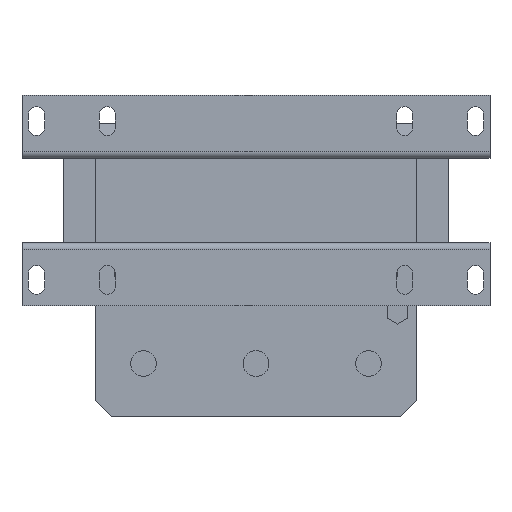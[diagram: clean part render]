
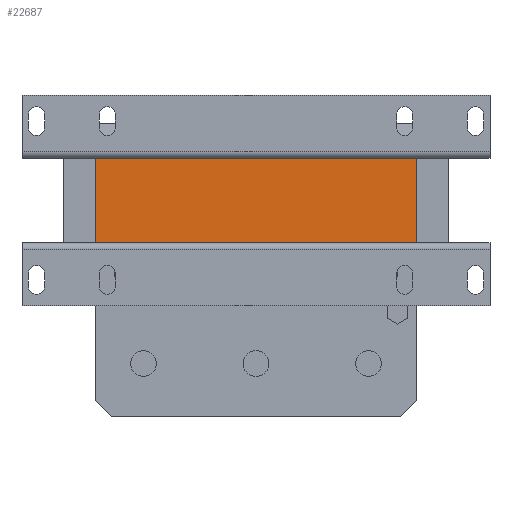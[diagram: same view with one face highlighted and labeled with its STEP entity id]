
A CAD part, front view. The second image highlights one B-rep face of the part: STEP entity #22687.
In plain terms, the highlighted planar face has unit normal (0, -1, 0).
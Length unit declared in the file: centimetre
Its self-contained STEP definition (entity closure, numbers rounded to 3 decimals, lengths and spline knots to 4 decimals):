
#128 = ORIENTED_EDGE ( 'NONE', *, *, #17214, .T. ) ;
#2708 = DIRECTION ( 'NONE',  ( 0., 0., -1. ) ) ;
#3041 = LINE ( 'NONE', #9224, #20859 ) ;
#4007 = DIRECTION ( 'NONE',  ( 0., 0., -1. ) ) ;
#4181 = AXIS2_PLACEMENT_3D ( 'NONE', #21871, #13037, #10677 ) ;
#5174 = EDGE_CURVE ( 'NONE', #12639, #20994, #6216, .T. ) ;
#5189 = CARTESIAN_POINT ( 'NONE',  ( 10., 0.8, 2.64 ) ) ;
#5818 = VERTEX_POINT ( 'NONE', #7489 ) ;
#6216 = LINE ( 'NONE', #24484, #8827 ) ;
#6393 = FACE_OUTER_BOUND ( 'NONE', #21777, .T. ) ;
#7274 = CARTESIAN_POINT ( 'NONE',  ( -10., 0.8, 2.64 ) ) ;
#7489 = CARTESIAN_POINT ( 'NONE',  ( -10., 0.8, 2.64 ) ) ;
#8193 = CARTESIAN_POINT ( 'NONE',  ( -10., 0.8, -2.64 ) ) ;
#8279 = CARTESIAN_POINT ( 'NONE',  ( -10., 0.8, -2.64 ) ) ;
#8827 = VECTOR ( 'NONE', #4007, 100. ) ;
#9224 = CARTESIAN_POINT ( 'NONE',  ( -10., 0.8, 2.64 ) ) ;
#9297 = CARTESIAN_POINT ( 'NONE',  ( 10., 0.8, -2.64 ) ) ;
#9356 = ORIENTED_EDGE ( 'NONE', *, *, #18368, .T. ) ;
#10677 = DIRECTION ( 'NONE',  ( 0., 0., 1. ) ) ;
#10945 = ORIENTED_EDGE ( 'NONE', *, *, #5174, .F. ) ;
#10964 = ORIENTED_EDGE ( 'NONE', *, *, #27060, .F. ) ;
#11980 = LINE ( 'NONE', #7274, #26225 ) ;
#12639 = VERTEX_POINT ( 'NONE', #5189 ) ;
#12696 = VECTOR ( 'NONE', #26278, 100. ) ;
#13037 = DIRECTION ( 'NONE',  ( 0., 1., 0. ) ) ;
#16441 = LINE ( 'NONE', #8279, #12696 ) ;
#17214 = EDGE_CURVE ( 'NONE', #5818, #25780, #11980, .T. ) ;
#17443 = PLANE ( 'NONE',  #4181 ) ;
#18368 = EDGE_CURVE ( 'NONE', #25780, #20994, #16441, .T. ) ;
#20859 = VECTOR ( 'NONE', #22772, 100. ) ;
#20994 = VERTEX_POINT ( 'NONE', #9297 ) ;
#21777 = EDGE_LOOP ( 'NONE', ( #9356, #10945, #10964, #128 ) ) ;
#21871 = CARTESIAN_POINT ( 'NONE',  ( -10., 0.8, 2.64 ) ) ;
#22687 = ADVANCED_FACE ( 'NONE', ( #6393 ), #17443, .F. ) ;
#22772 = DIRECTION ( 'NONE',  ( 1., 0., 0. ) ) ;
#24484 = CARTESIAN_POINT ( 'NONE',  ( 10., 0.8, 2.64 ) ) ;
#25780 = VERTEX_POINT ( 'NONE', #8193 ) ;
#26225 = VECTOR ( 'NONE', #2708, 100. ) ;
#26278 = DIRECTION ( 'NONE',  ( 1., 0., 0. ) ) ;
#27060 = EDGE_CURVE ( 'NONE', #5818, #12639, #3041, .T. ) ;
